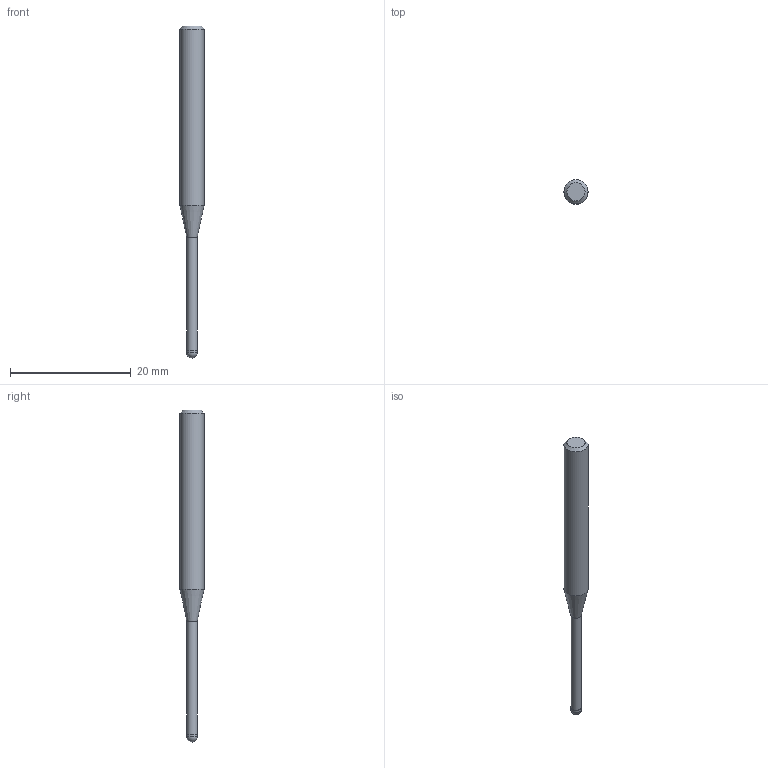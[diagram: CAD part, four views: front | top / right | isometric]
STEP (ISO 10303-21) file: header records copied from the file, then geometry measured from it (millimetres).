
FILE_DESCRIPTION((''),'2;1');
FILE_NAME('C:\Users\nsx150\AppData\Local\Temp\Mastercam 2021\ARV7HD45SN\TEMP.step','2023-06-13T16:37:07',(''),(''),'STEP Write','Mastercam 2021 ... CNC Software, Inc.','');
FILE_SCHEMA(('AUTOMOTIVE_DESIGN'));
Length unit declared in the file: millimetre
Products named in the file (1): None
Bounding box: 4 x 4 x 55 mm (x, y, z)
Volume: 454.8 mm3; surface area: 545.1 mm2
Topology: 2 solids, 2 shells, 9 faces, 14 edges, 8 vertices
Faces by surface type: plane 3, cylinder 3, cone 2, sphere 1
Full cylindrical faces by diameter (mm): 1.74 x1, 1.8 x1, 4 x1
Entity records: 211 total; most frequent: DIRECTION 36, CARTESIAN_POINT 25, AXIS2_PLACEMENT_3D 18, ORIENTED_EDGE 14, EDGE_LOOP 14, STYLED_ITEM 12, ADVANCED_FACE 9, FACE_BOUND 8
